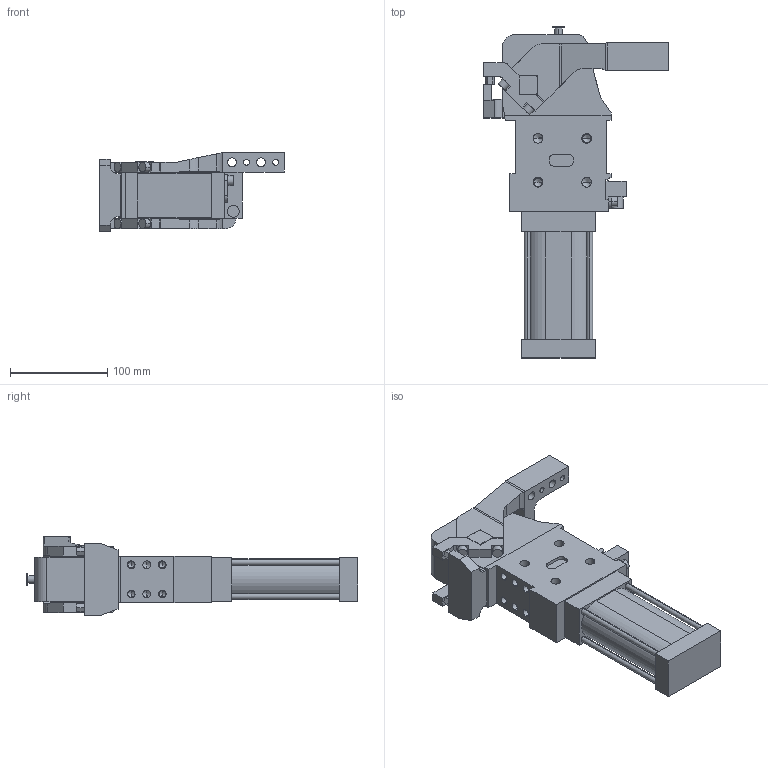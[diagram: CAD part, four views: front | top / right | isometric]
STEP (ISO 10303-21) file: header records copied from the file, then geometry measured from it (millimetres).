
FILE_DESCRIPTION (( 'STEP AP214' ), '1' );
FILE_NAME ('cpl50tv1ssi1g_16.STEP', '2023-01-26T08:51:29', ( '' ), ( '' ), 'SwSTEP 2.0', 'SolidWorks 2022', '' );
FILE_SCHEMA (( 'AUTOMOTIVE_DESIGN' ));
Length unit declared in the file: millimetre
Products named in the file (4): meccanica_cpl_50_tassello_esterno; blocchetto_VEP_0; cpl50tv1ssi1g_16; leva_v1ss_cpl50t
Assembly tree (3 placements, depth 2):
  cpl50tv1ssi1g_16
    meccanica_cpl_50_tassello_esterno
    blocchetto_VEP_0
    leva_v1ss_cpl50t
Bounding box: 190 x 341 x 81 mm (x, y, z)
Volume: 1428251.6 mm3; surface area: 173023.9 mm2
Topology: 3 solids, 3 shells, 436 faces, 1134 edges, 709 vertices
Faces by surface type: plane 224, cylinder 162, cone 50
Entity records: 14600 total; most frequent: CARTESIAN_POINT 2327, DIRECTION 2300, ORIENTED_EDGE 2176, EDGE_CURVE 1088, AXIS2_PLACEMENT_3D 780, VECTOR 740, LINE 740, VERTEX_POINT 709
